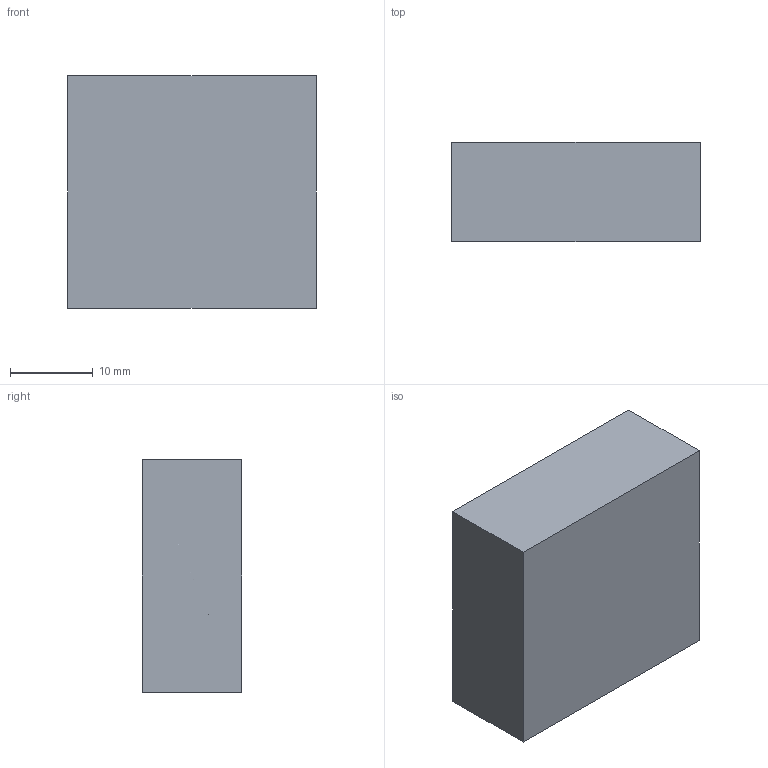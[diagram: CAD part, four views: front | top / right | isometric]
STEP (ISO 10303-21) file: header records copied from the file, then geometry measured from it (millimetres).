
FILE_DESCRIPTION(('FreeCAD Model'),'2;1');
FILE_NAME('Open CASCADE Shape Model','2026-09-11T23:31:28',('FreeCAD'),( 'FreeCAD'),'Open CASCADE STEP processor 7.8','FreeCAD','Unknown');
FILE_SCHEMA(('AUTOMOTIVE_DESIGN { 1 0 10303 214 1 1 1 1 }'));
Length unit declared in the file: millimetre
Products named in the file (1): Open CASCADE STEP translator 7.8 13
Bounding box: 30 x 12 x 28 mm (x, y, z)
Volume: 8662.6 mm3; surface area: 3525.6 mm2
Topology: 1 solids, 1 shells, 8 faces, 15 edges, 10 vertices
Faces by surface type: plane 7, cylinder 1
Full cylindrical faces by diameter (mm): 12.5 x1
Entity records: 211 total; most frequent: DIRECTION 35, CARTESIAN_POINT 34, ORIENTED_EDGE 30, EDGE_CURVE 15, LINE 13, VECTOR 13, AXIS2_PLACEMENT_3D 11, VERTEX_POINT 10
